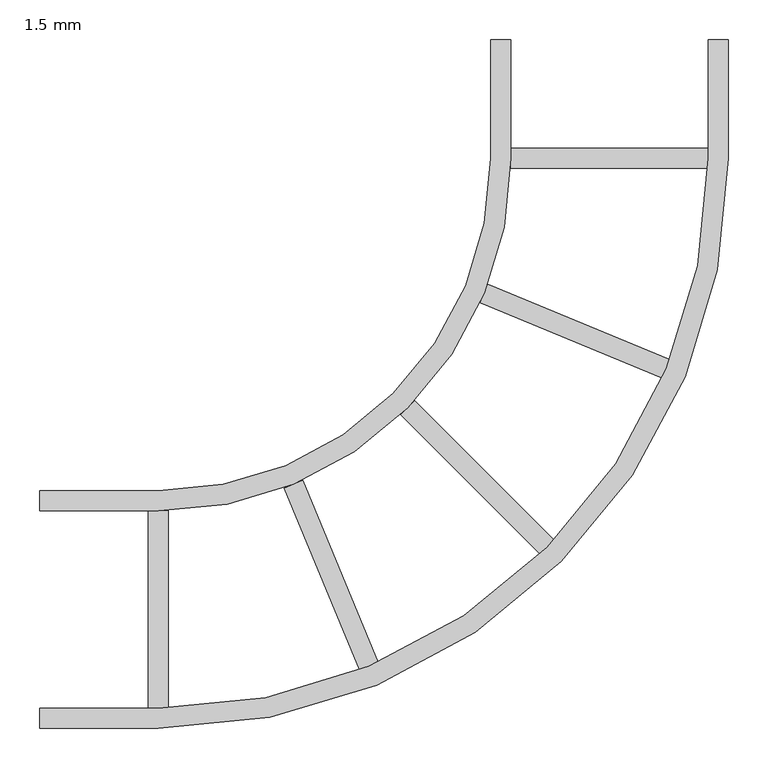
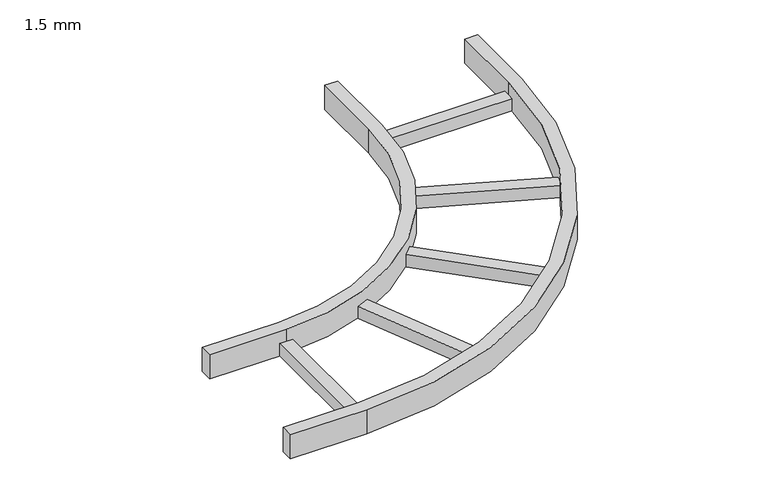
"""IFC4 building model written with IfcOpenShell, lengths in millimetres: cable carrier fitting geometry, BAKS_Łuk_drabiny : 1.5 mm."""

from ifc_helpers import new_model, si_unit, point, frame, frame_2d, origin, place, context, project, spatial, polyline, circle_curve, trimmed, segment, composite_curve, outline, extrude, source, transform, mapped, element, save


def cable_carrier_fitting_1_5_mm_3fb46f2a(model_context):
    return source(origin(), model_context, "Body", "SweptSolid", [
        extrude(outline(polyline([(-163.3641358, 387.8195292), (-153.6439766, 411.2860693), (76.5868029, 315.9213579), (66.8666437, 292.4548178), (-163.3641358, 387.8195292)])), frame((0.0, 0.0, -25.0), z_axis=(0.0, 0.0, 1.0), x_axis=(1.0, 0.0, 0.0)), (0.0, 0.0, 1.0), 25.4),
        extrude(outline(polyline([(-411.2860693, 153.6439766), (-387.8195292, 163.3641358), (-292.4548178, -66.8666437), (-315.9213579, -76.5868029), (-411.2860693, 153.6439766)])), frame((0.0, 0.0, -25.0), z_axis=(0.0, 0.0, 1.0), x_axis=(1.0, 0.0, 0.0)), (0.0, 0.0, 1.0), 25.4),
        extrude(outline(polyline([(-124.6, 557.3), (-124.6, 582.7), (124.6, 582.7), (124.6, 557.3), (-124.6, 557.3)])), frame((0.0, 0.0, -25.0), z_axis=(0.0, 0.0, 1.0), x_axis=(1.0, 0.0, 0.0)), (0.0, 0.0, 1.0), 25.4),
        extrude(outline(polyline([(-582.7, 124.6), (-557.3, 124.6), (-557.3, -124.6), (-582.7, -124.6), (-582.7, 124.6)])), frame((0.0, 0.0, -25.0), z_axis=(0.0, 0.0, 1.0), x_axis=(1.0, 0.0, 0.0)), (0.0, 0.0, 1.0), 25.4),
        extrude(outline(polyline([(-264.0348958, 246.0743835), (-246.0743835, 264.0348958), (-69.8633737, 87.8238859), (-87.8238859, 69.8633737), (-264.0348958, 246.0743835)])), frame((0.0, 0.0, -25.0), z_axis=(0.0, 0.0, 1.0), x_axis=(1.0, 0.0, 0.0)), (0.0, 0.0, 1.0), 25.4),
        extrude(outline(composite_curve([segment(polyline([(-720.0, -150.0), (-720.0, -124.6), (-570.0, -124.6)]), True, "CONTINUOUS"), segment(trimmed(circle_curve(frame_2d((-570.0, 570.0)), 694.6), [point((-570.0, -124.6))], [point((124.6, 570.0))], True, "CARTESIAN"), True, "CONTINUOUS"), segment(polyline([(124.6, 570.0), (124.6, 720.0), (150.0, 720.0), (150.0, 570.0)]), True, "CONTINUOUS"), segment(trimmed(circle_curve(frame_2d((-570.0, 570.0)), 720.0), [point((150.0, 570.0))], [point((-570.0, -150.0))], False, "CARTESIAN"), True, "CONTINUOUS"), segment(polyline([(-570.0, -150.0), (-720.0, -150.0)]), True, "CONTINUOUS")], self_intersect=False)), frame((0.0, 0.0, -25.0), z_axis=(0.0, 0.0, 1.0), x_axis=(1.0, 0.0, 0.0)), (0.0, 0.0, 1.0), 50.0),
        extrude(outline(composite_curve([segment(polyline([(-720.0, 124.6), (-720.0, 150.0), (-570.0, 150.0)]), True, "CONTINUOUS"), segment(trimmed(circle_curve(frame_2d((-570.0, 570.0)), 420.0), [point((-570.0, 150.0))], [point((-150.0, 570.0))], True, "CARTESIAN"), True, "CONTINUOUS"), segment(polyline([(-150.0, 570.0), (-150.0, 720.0), (-124.6, 720.0), (-124.6, 570.0)]), True, "CONTINUOUS"), segment(trimmed(circle_curve(frame_2d((-570.0, 570.0)), 445.4), [point((-124.6, 570.0))], [point((-570.0, 124.6))], False, "CARTESIAN"), True, "CONTINUOUS"), segment(polyline([(-570.0, 124.6), (-720.0, 124.6)]), True, "CONTINUOUS")], self_intersect=False)), frame((0.0, 0.0, -25.0), z_axis=(0.0, 0.0, 1.0), x_axis=(1.0, 0.0, 0.0)), (0.0, 0.0, 1.0), 50.0),
    ])


if __name__ == "__main__":
    model = new_model("IFC4")
    model_context = context("Model", 3, world=origin())
    ifc_project = project(units=[si_unit("LENGTHUNIT", "METRE", prefix="MILLI")], contexts=[model_context])
    site = spatial("IfcSite", under=ifc_project)
    building = spatial("IfcBuilding", under=site)
    placement = place(None, origin())
    cable_carrier_fitting_1_5_mm_shape = cable_carrier_fitting_1_5_mm_3fb46f2a(model_context)
    element("IfcCableCarrierFitting", 1, ObjectType="BAKS_Łuk_drabiny : 1.5 mm", at=placement, inside=building, context=model_context, shape_type="MappedRepresentation", body=[
        mapped(cable_carrier_fitting_1_5_mm_shape, transform((0.0, 0.0, 0.0), x_axis=(1.0, 0.0, 0.0), y_axis=(0.0, 1.0, 0.0), z_axis=(0.0, 0.0, 1.0))),
    ])
    save(model, "model.ifc")
